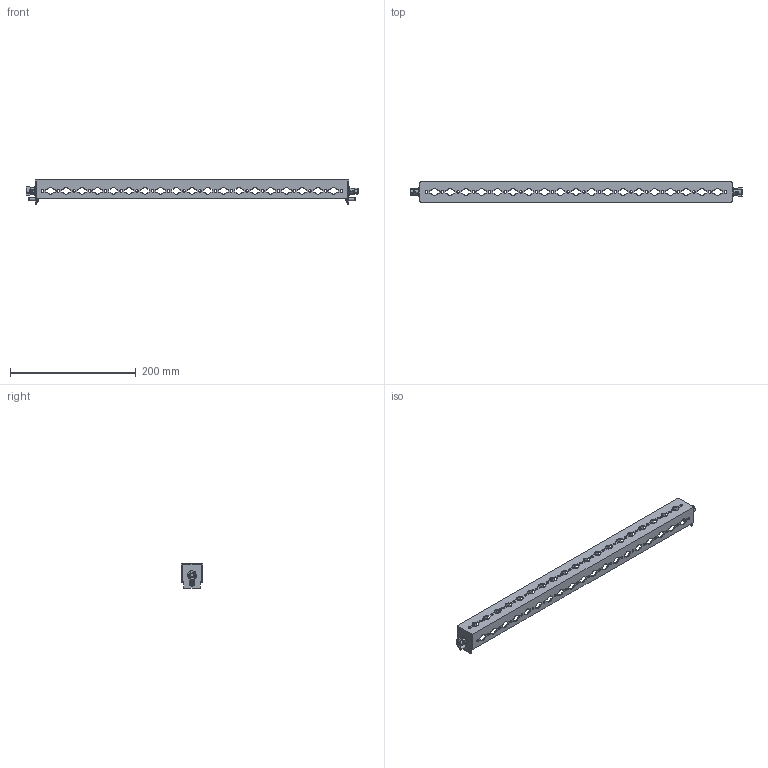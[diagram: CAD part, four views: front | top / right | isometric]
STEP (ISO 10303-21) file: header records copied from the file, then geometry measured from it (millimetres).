
FILE_DESCRIPTION(('Open CASCADE Model'),'2;1');
FILE_NAME('Open CASCADE Shape Model','2025-02-21T11:47:51',('Author'),( 'Open CASCADE'),'Open CASCADE STEP processor 7.8','Open CASCADE 7.8' ,'Unknown');
FILE_SCHEMA(('AUTOMOTIVE_DESIGN { 1 0 10303 214 1 1 1 1 }'));
Length unit declared in the file: millimetre
Products named in the file (5): Compound1; Solid1; Solid2; Solid3; Solid4
Assembly tree (7 placements, depth 2):
  Compound1
    Solid1
    Solid2  x2
    Solid3  x2
    Solid4  x2
Bounding box: 527.6 x 34 x 38.5 mm (x, y, z)
Volume: 63806.9 mm3; surface area: 91991.6 mm2
Topology: 9 solids, 9 shells, 1414 faces, 4056 edges, 2658 vertices
Faces by surface type: cylinder 716, plane 558, bspline 80, torus 32, cone 24, sphere 4
Full cylindrical faces by diameter (mm): 4.2 x60, 5 x4, 5.5 x2, 6 x2, 6.5 x4, 8.3 x2, 9.5 x2, 12 x2
Entity records: 43637 total; most frequent: CARTESIAN_POINT 9998, DIRECTION 7126, ORIENTED_EDGE 7106, EDGE_CURVE 3553, AXIS2_PLACEMENT_3D 2613, VERTEX_POINT 2350, LINE 1900, VECTOR 1900
